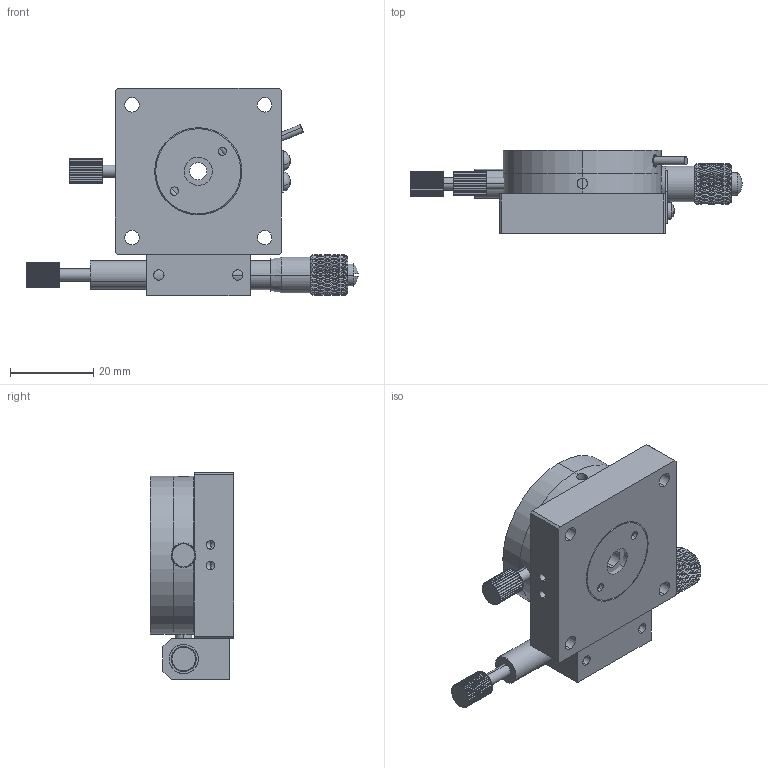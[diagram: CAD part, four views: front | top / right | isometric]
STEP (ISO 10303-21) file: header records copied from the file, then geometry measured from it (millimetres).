
FILE_DESCRIPTION (( 'STEP AP203' ), '1' );
FILE_NAME ('JCR-40L.STEP', '2013-12-16T04:04:37', ( 'MMO' ), ( '' ), 'SwSTEP 2.0', 'SolidWorks 2013', '' );
FILE_SCHEMA (( 'CONFIG_CONTROL_DESIGN' ));
Length unit declared in the file: millimetre
Products named in the file (18): 蝶楝蝶お漆橫葭(BA1730); socket head cap screw_ks_KS 1003 - M3 x 5 x 5-N; JCR-40-09-01; JCR-40-11-01; JCR-40-10-01; JCR-40-12-01; JCR-40-04-01; JCR-40-13-01; JCR-40-05-01; round cross head screw_ks_KS 1023 RC - M2.5 x 5-N; deep groove ball bearing (series 68)_ks_KS B 2023 S68 - 6801-S; JCR-40-01-01; JCR-40L; JALB-71-R; JCR-40-02-01; JCR-40-08-01; JCR-40-03-01; JCR-40-07-01
Assembly tree (19 placements, depth 2):
  JCR-40L
    JCR-40-01-01
    JCR-40-02-01
    JCR-40-03-01
    蝶楝蝶お漆橫葭(BA1730)
    JCR-40-09-01
    JCR-40-10-01
    JCR-40-04-01
    JCR-40-05-01
    deep groove ball bearing (series 68)_ks_KS B 2023 S68 - 6801-S
    JALB-71-R
    JCR-40-08-01
    JCR-40-07-01
    socket head cap screw_ks_KS 1003 - M3 x 5 x 5-N  x2
    JCR-40-11-01
    JCR-40-12-01
    JCR-40-13-01
    round cross head screw_ks_KS 1023 RC - M2.5 x 5-N  x2
Bounding box: 79.98 x 20 x 50 mm (x, y, z)
Volume: 30381.5 mm3; surface area: 21630.5 mm2
Topology: 19 solids, 19 shells, 1342 faces, 3134 edges, 1830 vertices
Faces by surface type: bspline 576, cylinder 508, plane 160, cone 56, torus 32, sphere 10
Entity records: 47112 total; most frequent: CARTESIAN_POINT 22032, ORIENTED_EDGE 5908, DIRECTION 3697, EDGE_CURVE 2954, VERTEX_POINT 1744, AXIS2_PLACEMENT_3D 1580, EDGE_LOOP 1372, FACE_OUTER_BOUND 1279
